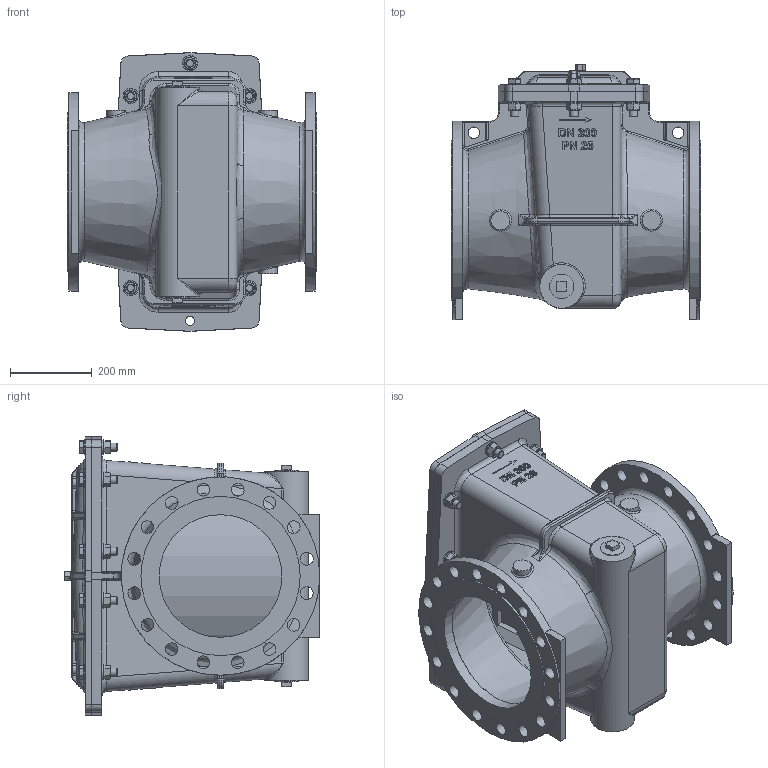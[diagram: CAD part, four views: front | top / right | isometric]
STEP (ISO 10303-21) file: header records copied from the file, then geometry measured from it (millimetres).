
FILE_DESCRIPTION(/* description */ (''),/* implementation_level */ '2;1');
FILE_NAME(/* name */ 'G:\Doc_Liberes\SymbolesCAD\Modeles_3D\FichierSTP\Aqua\Aqua90501\FAB300_25.stp',/* time_stamp */ '2017-11-27T10:30:37+01:00',/* author */ ('Cédric'),/* organization */ (''),/* preprocessor_version */ 'ST-DEVELOPER v16.13',/* originating_system */ 'Autodesk Inventor 2018',/* authorisation */ '');
FILE_SCHEMA (('AUTOMOTIVE_DESIGN { 1 0 10303 214 3 1 1 }'));
Length unit declared in the file: millimetre
Products named in the file (15): FAB300-25; 58076-40; 58078-40; 58079; 58079prot; 58079tam; 57576-02; 57576-07; 57507; 58077-40; 300656-12; ISO 49 Bouchon mâle plat T8 2; ISO 4014 - M20 x 80; ISO 7089 - 20 - 140 HV; ISO 4032 - M20
Assembly tree (49 placements, depth 3):
  FAB300-25
    58076-40
    58078-40
    58079
      58079prot
      58079tam
    ISO 4014 - M20 x 80  x9
    ISO 7089 - 20 - 140 HV  x19
    ISO 4032 - M20  x9
    57576-02
      57576-07
      57507
    58077-40
    300656-12
    ISO 49 Bouchon mâle plat T8 2  x2
Bounding box: 610 x 624.5 x 680 mm (x, y, z)
Volume: 32587483.9 mm3; surface area: 4847200.3 mm2
Topology: 47 solids, 47 shells, 3128 faces, 7855 edges, 4836 vertices
Faces by surface type: plane 1256, cylinder 861, bspline 636, torus 246, cone 125, sphere 4
Full cylindrical faces by diameter (mm): 1.6 x1, 2.3 x1, 6.5 x1, 6.92 x1, 8 x1, 10 x4, 10.11 x2, 14 x1, 17.294 x9, 18.63 x1, 20 x9, 20.955 x1, 21 x19, 22 x20, 28 x2, 28.19 x9, 31 x32, 37 x19, 46 x3, 56.66 x2, 300 x2, 389 x2, 485 x2
Entity records: 106007 total; most frequent: CARTESIAN_POINT 40799, ORIENTED_EDGE 13960, DIRECTION 12437, EDGE_CURVE 6980, AXIS2_PLACEMENT_3D 4513, VERTEX_POINT 4343, LINE 3411, VECTOR 3411
